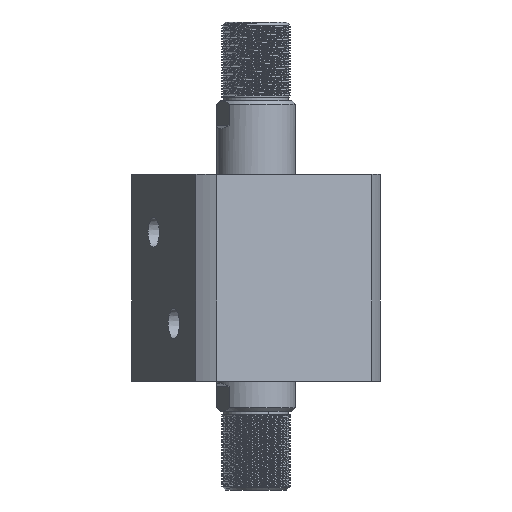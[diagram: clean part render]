
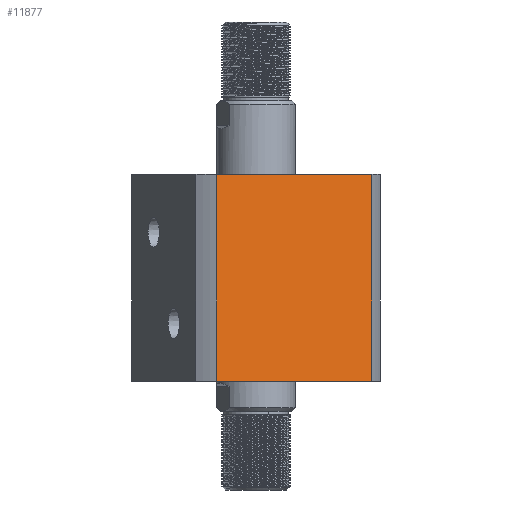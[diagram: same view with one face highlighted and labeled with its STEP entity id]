
A CAD part, front view. The second image highlights one B-rep face of the part: STEP entity #11877.
In plain terms, the highlighted planar face has unit normal (0.383, -0.924, 0) as drawn and (-1, 0, 0) by its records, which use the part's own axes.
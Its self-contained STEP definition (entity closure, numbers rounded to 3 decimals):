
#220 = EDGE_CURVE ( 'NONE', #3967, #7986, #8733, .T. ) ;
#624 = VECTOR ( 'NONE', #3580, 1000. ) ;
#2467 = VERTEX_POINT ( 'NONE', #13465 ) ;
#2684 = VECTOR ( 'NONE', #12419, 1000. ) ;
#3580 = DIRECTION ( 'NONE',  ( 0., -1., 0. ) ) ;
#3967 = VERTEX_POINT ( 'NONE', #24097 ) ;
#4262 = AXIS2_PLACEMENT_3D ( 'NONE', #22621, #24623, #12577 ) ;
#4303 = CARTESIAN_POINT ( 'NONE',  ( -57., -47.971, 118. ) ) ;
#4924 = CARTESIAN_POINT ( 'NONE',  ( -57., 57., 118. ) ) ;
#6652 = LINE ( 'NONE', #4924, #22157 ) ;
#6955 = DIRECTION ( 'NONE',  ( 0., -1., 0. ) ) ;
#7986 = VERTEX_POINT ( 'NONE', #13614 ) ;
#8448 = PLANE ( 'NONE',  #4262 ) ;
#8700 = EDGE_CURVE ( 'NONE', #3967, #2467, #10756, .T. ) ;
#8733 = LINE ( 'NONE', #9369, #2684 ) ;
#8928 = VECTOR ( 'NONE', #25902, 1000. ) ;
#9369 = CARTESIAN_POINT ( 'NONE',  ( -57., 47.971, -182. ) ) ;
#10756 = LINE ( 'NONE', #15702, #624 ) ;
#11049 = EDGE_LOOP ( 'NONE', ( #22925, #18068, #23404, #12687 ) ) ;
#11877 = ADVANCED_FACE ( 'NONE', ( #18462 ), #8448, .F. ) ;
#12419 = DIRECTION ( 'NONE',  ( 0., 0., 1. ) ) ;
#12577 = DIRECTION ( 'NONE',  ( 0., 1., 0. ) ) ;
#12687 = ORIENTED_EDGE ( 'NONE', *, *, #24853, .F. ) ;
#13465 = CARTESIAN_POINT ( 'NONE',  ( -57., -47.971, 0. ) ) ;
#13614 = CARTESIAN_POINT ( 'NONE',  ( -57., 47.971, 118. ) ) ;
#14907 = LINE ( 'NONE', #21765, #8928 ) ;
#15702 = CARTESIAN_POINT ( 'NONE',  ( -57., 57., 0. ) ) ;
#18068 = ORIENTED_EDGE ( 'NONE', *, *, #8700, .T. ) ;
#18462 = FACE_OUTER_BOUND ( 'NONE', #11049, .T. ) ;
#19505 = EDGE_CURVE ( 'NONE', #19752, #2467, #14907, .T. ) ;
#19752 = VERTEX_POINT ( 'NONE', #4303 ) ;
#21765 = CARTESIAN_POINT ( 'NONE',  ( -57., -47.971, -182. ) ) ;
#22157 = VECTOR ( 'NONE', #6955, 1000. ) ;
#22621 = CARTESIAN_POINT ( 'NONE',  ( -57., 57., 118. ) ) ;
#22925 = ORIENTED_EDGE ( 'NONE', *, *, #220, .F. ) ;
#23404 = ORIENTED_EDGE ( 'NONE', *, *, #19505, .F. ) ;
#24097 = CARTESIAN_POINT ( 'NONE',  ( -57., 47.971, 0. ) ) ;
#24623 = DIRECTION ( 'NONE',  ( 1., 0., 0. ) ) ;
#24853 = EDGE_CURVE ( 'NONE', #7986, #19752, #6652, .T. ) ;
#25902 = DIRECTION ( 'NONE',  ( 0., 0., -1. ) ) ;
